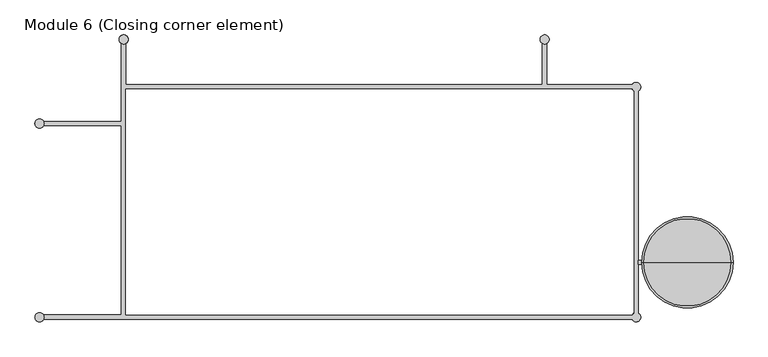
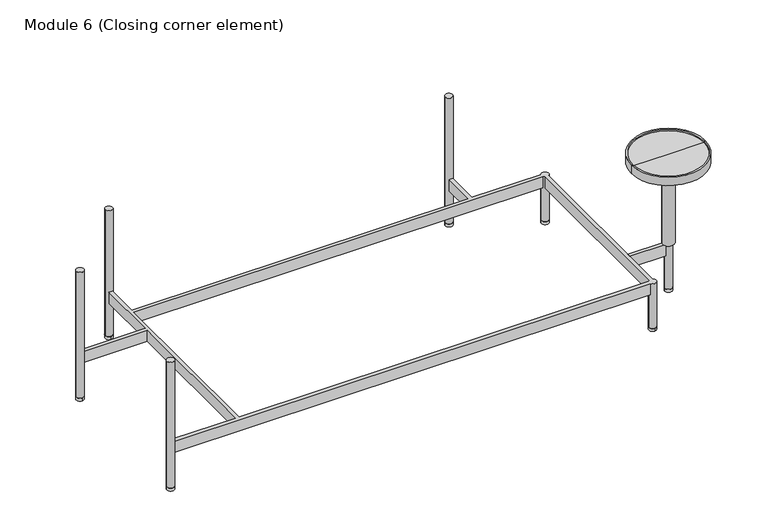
"""IFC4 building model written with IfcOpenShell, lengths in millimetres: furniture geometry, Module 6 (Closing corner element) : 1800х930х710мм."""

from ifc_helpers import new_model, si_unit, point, frame, frame_2d, origin, origin_with_axes, place, context, project, spatial, polyline, circle_curve, trimmed, segment, composite_curve, outline, extrude, source, transform, mapped, element, save
from ifc_brep_helpers import plane_surface, cylinder_surface, revolved_surface, advanced_brep


def module_6_closing_corner_element_505ae7c1(model_context):
    return source(origin(), model_context, "Body", "SolidModel", [
        extrude(outline(composite_curve([segment(trimmed(circle_curve(frame_2d((-30.0, -300.0281998)), 12.5), [point((-30.0, -312.5281998))], [point((-30.0, -287.5281998))], False, "CARTESIAN"), True, "CONTINUOUS"), segment(trimmed(circle_curve(frame_2d((-30.0, -300.0281998)), 12.5), [point((-30.0, -287.5281998))], [point((-30.0, -312.5281998))], False, "CARTESIAN"), True, "CONTINUOUS")], self_intersect=False)), origin_with_axes(), (0.0, 0.0, 1.0), 10.0),
        extrude(outline(composite_curve([segment(trimmed(circle_curve(frame_2d((-30.0, -830.0)), 12.5), [point((-17.5, -830.0))], [point((-42.5, -830.0))], False, "CARTESIAN"), True, "CONTINUOUS"), segment(trimmed(circle_curve(frame_2d((-30.0, -830.0)), 12.5), [point((-42.5, -830.0))], [point((-17.5, -830.0))], False, "CARTESIAN"), True, "CONTINUOUS")], self_intersect=False)), origin_with_axes(), (0.0, 0.0, 1.0), 10.0),
        extrude(outline(composite_curve([segment(trimmed(circle_curve(frame_2d((1740.0, -680.0)), 12.5), [point((1752.5, -680.0))], [point((1727.5, -680.0))], False, "CARTESIAN"), True, "CONTINUOUS"), segment(trimmed(circle_curve(frame_2d((1740.0, -680.0)), 12.5), [point((1727.5, -680.0))], [point((1752.5, -680.0))], False, "CARTESIAN"), True, "CONTINUOUS")], self_intersect=False)), origin_with_axes(), (0.0, 0.0, 1.0), 10.0),
        extrude(outline(composite_curve([segment(trimmed(circle_curve(frame_2d((1600.0, -200.0)), 12.5), [point((1612.5, -200.0))], [point((1587.5, -200.0))], False, "CARTESIAN"), True, "CONTINUOUS"), segment(trimmed(circle_curve(frame_2d((1600.0, -200.0)), 12.5), [point((1587.5, -200.0))], [point((1612.5, -200.0))], False, "CARTESIAN"), True, "CONTINUOUS")], self_intersect=False)), origin_with_axes(), (0.0, 0.0, 1.0), 10.0),
        extrude(outline(composite_curve([segment(trimmed(circle_curve(frame_2d((1350.0, -70.0)), 12.5), [point((1362.5, -70.0))], [point((1337.5, -70.0))], False, "CARTESIAN"), True, "CONTINUOUS"), segment(trimmed(circle_curve(frame_2d((1350.0, -70.0)), 12.5), [point((1337.5, -70.0))], [point((1362.5, -70.0))], False, "CARTESIAN"), True, "CONTINUOUS")], self_intersect=False)), origin_with_axes(), (0.0, 0.0, 1.0), 10.0),
        extrude(outline(composite_curve([segment(trimmed(circle_curve(frame_2d((1600.0, -830.0)), 12.5), [point((1600.0, -842.5))], [point((1600.0, -817.5))], False, "CARTESIAN"), True, "CONTINUOUS"), segment(trimmed(circle_curve(frame_2d((1600.0, -830.0)), 12.5), [point((1600.0, -817.5))], [point((1600.0, -842.5))], False, "CARTESIAN"), True, "CONTINUOUS")], self_intersect=False)), origin_with_axes(), (0.0, 0.0, 1.0), 10.0),
        extrude(outline(composite_curve([segment(trimmed(circle_curve(frame_2d((200.0, -70.0)), 12.5), [point((200.0, -82.5))], [point((200.0, -57.5))], False, "CARTESIAN"), True, "CONTINUOUS"), segment(trimmed(circle_curve(frame_2d((200.0, -70.0)), 12.5), [point((200.0, -57.5))], [point((200.0, -82.5))], False, "CARTESIAN"), True, "CONTINUOUS")], self_intersect=False)), origin_with_axes(), (0.0, 0.0, 1.0), 10.0),
        advanced_brep(
        [(1605.9718002, -674.0, 170.0), (1605.9718002, -674.0, 130.0), (1605.9718002, -686.0, 130.0), (1605.9718002, -686.0, 170.0), (1729.0341439, -686.0, 170.0), (1752.5, -680.0, 170.0), (1729.0341439, -674.0, 170.0), (1729.0341439, -686.0, 130.0), (1729.0341439, -674.0, 130.0), (1727.5, -680.0, 130.0), (1727.5, -680.0, 10.0), (1752.5, -680.0, 10.0)],
        [
            (0, 1),
            (1, 2),
            (2, 3),
            (3, 0),
            (3, 4),
            (4, 5, circle_curve(frame((1740.0, -680.0, 170.0), z_axis=(0.0, 0.0, 1.0), x_axis=(1.0, 0.0, 0.0)), 12.5)),
            (5, 6, circle_curve(frame((1740.0, -680.0, 170.0), z_axis=(0.0, 0.0, 1.0), x_axis=(1.0, 0.0, 0.0)), 12.5)),
            (6, 0),
            (2, 7),
            (7, 4),
            (1, 8),
            (8, 9, circle_curve(frame((1740.0, -680.0, 130.0), z_axis=(0.0, 0.0, 1.0), x_axis=(1.0, 0.0, 0.0)), 12.5)),
            (9, 7, circle_curve(frame((1740.0, -680.0, 130.0), z_axis=(0.0, 0.0, 1.0), x_axis=(1.0, 0.0, 0.0)), 12.5)),
            (6, 8),
            (10, 11, circle_curve(frame((1740.0, -680.0, 10.0), z_axis=(0.0, 0.0, -1.0), x_axis=(1.0, 0.0, 0.0)), 12.5)),
            (11, 10, circle_curve(frame((1740.0, -680.0, 10.0), z_axis=(0.0, 0.0, -1.0), x_axis=(1.0, 0.0, 0.0)), 12.5)),
            (11, 5),
            (9, 10),
        ],
        [
            plane_surface(frame((1605.9718002, -680.0, 0.0), z_axis=(-1.0, 0.0, 0.0), x_axis=(0.0, 0.0, 1.0))),
            plane_surface(frame((1740.0, -674.0, 170.0), z_axis=(0.0, 0.0, 1.0), x_axis=(-1.0, 0.0, 0.0))),
            plane_surface(frame((1740.0, -686.0, 170.0), z_axis=(0.0, -1.0, 0.0), x_axis=(-1.0, 0.0, 0.0))),
            plane_surface(frame((1740.0, -686.0, 130.0), z_axis=(0.0, 0.0, -1.0), x_axis=(-1.0, 0.0, 0.0))),
            plane_surface(frame((1740.0, -674.0, 130.0), z_axis=(0.0, 1.0, 0.0), x_axis=(-1.0, 0.0, 0.0))),
            plane_surface(frame((1752.5, -680.0, 10.0), z_axis=(0.0, 0.0, -1.0), x_axis=(0.0, -1.0, 0.0))),
            cylinder_surface(frame((1740.0, -680.0, 10.0), z_axis=(0.0, 0.0, 1.0), x_axis=(1.0, 0.0, 0.0)), 12.5),
        ],
        [
            (0, [[1, 2, 3, 4]]),
            (1, [[-4, 5, 6, 7, 8]]),
            (2, [[-3, 9, 10, -5]]),
            (3, [[-2, 11, 12, 13, -9]]),
            (4, [[-1, -8, 14, -11]]),
            (5, [[15, 16]]),
            (6, [[-16, 17, -6, -10, -13, 18]]),
            (6, [[-15, -18, -12, -14, -7, -17]]),
        ],
    ),
        advanced_brep(
        [(206.0281998, -206.0281998, 130.0), (206.0281998, -206.0281998, 170.0), (206.0281998, -823.9718002, 170.0), (206.0281998, -823.9718002, 130.0), (194.0281998, -306.0281998, 170.0), (194.0281998, -306.0281998, 130.0), (194.0281998, -823.9718002, 130.0), (194.0281998, -823.9718002, 170.0), (194.0281998, -294.0281998, 130.0), (194.0281998, -294.0281998, 170.0), (194.0281998, -80.9812386, 170.0), (194.0281998, -80.9812386, 130.0), (1589.0496207, -823.9718002, 170.0), (1589.0496207, -823.9718002, 130.0), (1589.0187614, -835.9718002, 130.0), (1589.0187614, -835.9718002, 170.0), (-19.0187614, -835.9718002, 170.0), (-19.0187614, -835.9718002, 130.0), (1593.9718002, -819.0496207, 170.0), (1593.9718002, -210.9503793, 170.0), (1593.9718002, -210.9503793, 130.0), (1593.9718002, -819.0496207, 130.0), (1605.9718002, -819.0187614, 130.0), (1605.9718002, -210.9812386, 130.0), (1605.9718002, -210.9812386, 170.0), (1605.9718002, -819.0187614, 170.0), (1589.0496207, -206.0281998, 130.0), (1589.0496207, -206.0281998, 170.0), (1587.5, -830.0, 130.0), (-17.5, -830.0, 130.0), (-19.0496207, -823.9718002, 130.0), (-19.0341439, -306.0281998, 130.0), (-17.5, -300.0281998, 130.0), (-19.0341439, -294.0281998, 130.0), (206.0281998, -80.9503793, 130.0), (206.0281998, -194.0281998, 130.0), (1344.0, -194.0281998, 130.0), (1344.0, -80.9658561, 130.0), (1356.0, -80.9658561, 130.0), (1356.0, -194.0281998, 130.0), (1589.0187614, -194.0281998, 130.0), (1587.5, -200.0, 130.0), (1589.0187614, -194.0281998, 170.0), (1356.0, -194.0281998, 170.0), (206.0281998, -194.0281998, 170.0), (1344.0, -194.0281998, 170.0), (1612.5, -830.0, 170.0), (1612.5, -200.0, 170.0), (1356.0, -80.9658561, 170.0), (1344.0, -80.9658561, 170.0), (206.0281998, -80.9503793, 170.0), (-19.0341439, -294.0281998, 170.0), (-17.5, -300.0281998, 170.0), (-19.0341439, -306.0281998, 170.0), (-19.0496207, -823.9718002, 170.0), (-17.5, -830.0, 170.0), (1587.5, -830.0, 10.0), (1612.5, -830.0, 10.0), (1587.5, -200.0, 10.0), (1612.5, -200.0, 10.0), (187.5, -70.0, 460.0), (212.5, -70.0, 460.0), (1337.5, -70.0, 460.0), (1362.5, -70.0, 460.0), (-42.5, -830.0, 460.0), (-17.5, -830.0, 460.0), (-42.5, -300.0281998, 460.0), (-17.5, -300.0281998, 460.0), (187.5, -70.0, 10.0), (212.5, -70.0, 10.0), (1337.5, -70.0, 10.0), (1362.5, -70.0, 10.0), (-42.5, -830.0, 10.0), (-17.5, -830.0, 10.0), (-42.5, -300.0281998, 10.0), (-17.5, -300.0281998, 10.0)],
        [
            (0, 1),
            (1, 2),
            (2, 3),
            (3, 0),
            (4, 5),
            (5, 6),
            (6, 7),
            (7, 4),
            (8, 9),
            (9, 10),
            (10, 11),
            (11, 8),
            (2, 12),
            (12, 13),
            (13, 3),
            (14, 15),
            (15, 16),
            (16, 17),
            (17, 14),
            (18, 19),
            (19, 20),
            (20, 21),
            (21, 18),
            (22, 23),
            (23, 24),
            (24, 25),
            (25, 22),
            (0, 26),
            (26, 27),
            (27, 1),
            (13, 28, circle_curve(frame((1600.0, -830.0, 130.0), z_axis=(0.0, 0.0, 1.0), x_axis=(1.0, 0.0, 0.0)), 12.5)),
            (28, 14, circle_curve(frame((1600.0, -830.0, 130.0), z_axis=(0.0, 0.0, 1.0), x_axis=(1.0, 0.0, 0.0)), 12.5)),
            (17, 29, circle_curve(frame((-30.0, -830.0, 130.0), z_axis=(0.0, 0.0, 1.0), x_axis=(1.0, 0.0, 0.0)), 12.5)),
            (29, 30, circle_curve(frame((-30.0, -830.0, 130.0), z_axis=(0.0, 0.0, 1.0), x_axis=(1.0, 0.0, 0.0)), 12.5)),
            (30, 6),
            (5, 31),
            (31, 32, circle_curve(frame((-30.0, -300.0281998, 130.0), z_axis=(0.0, 0.0, 1.0), x_axis=(1.0, 0.0, 0.0)), 12.5)),
            (32, 33, circle_curve(frame((-30.0, -300.0281998, 130.0), z_axis=(0.0, 0.0, 1.0), x_axis=(1.0, 0.0, 0.0)), 12.5)),
            (33, 8),
            (11, 34, circle_curve(frame((200.0, -70.0, 130.0), z_axis=(0.0, 0.0, 1.0), x_axis=(1.0, 0.0, 0.0)), 12.5)),
            (34, 35),
            (35, 36),
            (36, 37),
            (37, 38, circle_curve(frame((1350.0, -70.0, 130.0), z_axis=(0.0, 0.0, 1.0), x_axis=(1.0, 0.0, 0.0)), 12.5)),
            (38, 39),
            (39, 40),
            (40, 41, circle_curve(frame((1600.0, -200.0, 130.0), z_axis=(0.0, 0.0, 1.0), x_axis=(1.0, 0.0, 0.0)), 12.5)),
            (41, 26, circle_curve(frame((1600.0, -200.0, 130.0), z_axis=(0.0, 0.0, 1.0), x_axis=(1.0, 0.0, 0.0)), 12.5)),
            (22, 21, circle_curve(frame((1600.0, -830.0, 130.0), z_axis=(0.0, 0.0, 1.0), x_axis=(1.0, 0.0, 0.0)), 12.5)),
            (20, 23, circle_curve(frame((1600.0, -200.0, 130.0), z_axis=(0.0, 0.0, 1.0), x_axis=(1.0, 0.0, 0.0)), 12.5)),
            (42, 40),
            (39, 43),
            (43, 42),
            (35, 44),
            (44, 45),
            (45, 36),
            (15, 46, circle_curve(frame((1600.0, -830.0, 170.0), z_axis=(0.0, 0.0, 1.0), x_axis=(1.0, 0.0, 0.0)), 12.5)),
            (46, 25, circle_curve(frame((1600.0, -830.0, 170.0), z_axis=(0.0, 0.0, 1.0), x_axis=(1.0, 0.0, 0.0)), 12.5)),
            (24, 47, circle_curve(frame((1600.0, -200.0, 170.0), z_axis=(0.0, 0.0, 1.0), x_axis=(1.0, 0.0, 0.0)), 12.5)),
            (47, 42, circle_curve(frame((1600.0, -200.0, 170.0), z_axis=(0.0, 0.0, 1.0), x_axis=(1.0, 0.0, 0.0)), 12.5)),
            (43, 48),
            (48, 49, circle_curve(frame((1350.0, -70.0, 170.0), z_axis=(0.0, 0.0, -1.0), x_axis=(1.0, 0.0, 0.0)), 12.5)),
            (49, 45),
            (44, 50),
            (50, 10, circle_curve(frame((200.0, -70.0, 170.0), z_axis=(0.0, 0.0, -1.0), x_axis=(1.0, 0.0, 0.0)), 12.5)),
            (9, 51),
            (51, 52, circle_curve(frame((-30.0, -300.0281998, 170.0), z_axis=(0.0, 0.0, -1.0), x_axis=(1.0, 0.0, 0.0)), 12.5)),
            (52, 53, circle_curve(frame((-30.0, -300.0281998, 170.0), z_axis=(0.0, 0.0, -1.0), x_axis=(1.0, 0.0, 0.0)), 12.5)),
            (53, 4),
            (7, 54),
            (54, 55, circle_curve(frame((-30.0, -830.0, 170.0), z_axis=(0.0, 0.0, -1.0), x_axis=(1.0, 0.0, 0.0)), 12.5)),
            (55, 16, circle_curve(frame((-30.0, -830.0, 170.0), z_axis=(0.0, 0.0, -1.0), x_axis=(1.0, 0.0, 0.0)), 12.5)),
            (27, 19, circle_curve(frame((1600.0, -200.0, 170.0), z_axis=(0.0, 0.0, 1.0), x_axis=(1.0, 0.0, 0.0)), 12.5)),
            (18, 12, circle_curve(frame((1600.0, -830.0, 170.0), z_axis=(0.0, 0.0, 1.0), x_axis=(1.0, 0.0, 0.0)), 12.5)),
            (56, 57, circle_curve(frame((1600.0, -830.0, 10.0), z_axis=(0.0, 0.0, -1.0), x_axis=(1.0, 0.0, 0.0)), 12.5)),
            (57, 56, circle_curve(frame((1600.0, -830.0, 10.0), z_axis=(0.0, 0.0, -1.0), x_axis=(1.0, 0.0, 0.0)), 12.5)),
            (58, 59, circle_curve(frame((1600.0, -200.0, 10.0), z_axis=(0.0, 0.0, -1.0), x_axis=(1.0, 0.0, 0.0)), 12.5)),
            (59, 58, circle_curve(frame((1600.0, -200.0, 10.0), z_axis=(0.0, 0.0, -1.0), x_axis=(1.0, 0.0, 0.0)), 12.5)),
            (57, 46),
            (28, 56),
            (59, 47),
            (41, 58),
            (60, 61, circle_curve(frame((200.0, -70.0, 460.0), z_axis=(0.0, 0.0, 1.0), x_axis=(1.0, 0.0, 0.0)), 12.5)),
            (61, 60, circle_curve(frame((200.0, -70.0, 460.0), z_axis=(0.0, 0.0, 1.0), x_axis=(1.0, 0.0, 0.0)), 12.5)),
            (62, 63, circle_curve(frame((1350.0, -70.0, 460.0), z_axis=(0.0, 0.0, 1.0), x_axis=(1.0, 0.0, 0.0)), 12.5)),
            (63, 62, circle_curve(frame((1350.0, -70.0, 460.0), z_axis=(0.0, 0.0, 1.0), x_axis=(1.0, 0.0, 0.0)), 12.5)),
            (64, 65, circle_curve(frame((-30.0, -830.0, 460.0), z_axis=(0.0, 0.0, 1.0), x_axis=(1.0, 0.0, 0.0)), 12.5)),
            (65, 64, circle_curve(frame((-30.0, -830.0, 460.0), z_axis=(0.0, 0.0, 1.0), x_axis=(1.0, 0.0, 0.0)), 12.5)),
            (66, 67, circle_curve(frame((-30.0, -300.0281998, 460.0), z_axis=(0.0, 0.0, 1.0), x_axis=(1.0, 0.0, 0.0)), 12.5)),
            (67, 66, circle_curve(frame((-30.0, -300.0281998, 460.0), z_axis=(0.0, 0.0, 1.0), x_axis=(1.0, 0.0, 0.0)), 12.5)),
            (68, 69, circle_curve(frame((200.0, -70.0, 10.0), z_axis=(0.0, 0.0, -1.0), x_axis=(1.0, 0.0, 0.0)), 12.5)),
            (69, 68, circle_curve(frame((200.0, -70.0, 10.0), z_axis=(0.0, 0.0, -1.0), x_axis=(1.0, 0.0, 0.0)), 12.5)),
            (70, 71, circle_curve(frame((1350.0, -70.0, 10.0), z_axis=(0.0, 0.0, -1.0), x_axis=(1.0, 0.0, 0.0)), 12.5)),
            (71, 70, circle_curve(frame((1350.0, -70.0, 10.0), z_axis=(0.0, 0.0, -1.0), x_axis=(1.0, 0.0, 0.0)), 12.5)),
            (72, 73, circle_curve(frame((-30.0, -830.0, 10.0), z_axis=(0.0, 0.0, -1.0), x_axis=(1.0, 0.0, 0.0)), 12.5)),
            (73, 72, circle_curve(frame((-30.0, -830.0, 10.0), z_axis=(0.0, 0.0, -1.0), x_axis=(1.0, 0.0, 0.0)), 12.5)),
            (74, 75, circle_curve(frame((-30.0, -300.0281998, 10.0), z_axis=(0.0, 0.0, -1.0), x_axis=(1.0, 0.0, 0.0)), 12.5)),
            (75, 74, circle_curve(frame((-30.0, -300.0281998, 10.0), z_axis=(0.0, 0.0, -1.0), x_axis=(1.0, 0.0, 0.0)), 12.5)),
            (60, 68),
            (69, 61),
            (50, 34),
            (62, 70),
            (71, 63),
            (48, 38),
            (37, 49),
            (64, 72),
            (73, 29),
            (55, 65),
            (54, 30),
            (53, 31),
            (33, 51),
            (66, 74),
            (75, 32),
            (52, 67),
        ],
        [
            plane_surface(frame((206.0281998, -206.0281998, 170.0), z_axis=(1.0, 0.0, 0.0), x_axis=(0.0, -1.0, 0.0))),
            plane_surface(frame((194.0281998, -194.0281998, 130.0), z_axis=(-1.0, 0.0, 0.0), x_axis=(0.0, -1.0, 0.0))),
            plane_surface(frame((206.0281998, -823.9718002, 170.0), z_axis=(0.0, 1.0, 0.0), x_axis=(1.0, 0.0, 0.0))),
            plane_surface(frame((194.0281998, -835.9718002, 130.0), z_axis=(0.0, -1.0, 0.0), x_axis=(1.0, 0.0, 0.0))),
            plane_surface(frame((1593.9718002, -823.9718002, 170.0), z_axis=(-1.0, 0.0, 0.0), x_axis=(0.0, 1.0, 0.0))),
            plane_surface(frame((1605.9718002, -835.9718002, 130.0), z_axis=(1.0, 0.0, 0.0), x_axis=(0.0, 1.0, 0.0))),
            plane_surface(frame((1593.9718002, -206.0281998, 170.0), z_axis=(0.0, -1.0, 0.0), x_axis=(-1.0, 0.0, 0.0))),
            plane_surface(frame((1593.9718002, -206.0281998, 130.0), z_axis=(0.0, 0.0, -1.0), x_axis=(-1.0, 0.0, 0.0))),
            plane_surface(frame((1605.9718002, -194.0281998, 130.0), z_axis=(0.0, 1.0, 0.0), x_axis=(-1.0, 0.0, 0.0))),
            plane_surface(frame((1605.9718002, -194.0281998, 170.0), z_axis=(0.0, 0.0, 1.0), x_axis=(-1.0, 0.0, 0.0))),
            plane_surface(frame((1612.5, -830.0, 10.0), z_axis=(0.0, 0.0, -1.0), x_axis=(0.0, -1.0, 0.0))),
            cylinder_surface(frame((1600.0, -830.0, 10.0), z_axis=(0.0, 0.0, 1.0), x_axis=(1.0, 0.0, 0.0)), 12.5),
            cylinder_surface(frame((1600.0, -200.0, 0.0), z_axis=(0.0, 0.0, 1.0), x_axis=(1.0, 0.0, 0.0)), 12.5),
            plane_surface(frame((212.5, -70.0, 460.0), z_axis=(0.0, 0.0, 1.0), x_axis=(0.0, 1.0, 0.0))),
            plane_surface(frame((212.5, -70.0, 10.0), z_axis=(0.0, 0.0, -1.0), x_axis=(0.0, -1.0, 0.0))),
            cylinder_surface(frame((200.0, -70.0, 10.0), z_axis=(0.0, 0.0, 1.0), x_axis=(1.0, 0.0, 0.0)), 12.5),
            cylinder_surface(frame((1350.0, -70.0, 0.0), z_axis=(0.0, 0.0, 1.0), x_axis=(1.0, 0.0, 0.0)), 12.5),
            plane_surface(frame((206.0281998, -70.0, 170.0), z_axis=(1.0, 0.0, 0.0), x_axis=(0.0, -1.0, 0.0))),
            plane_surface(frame((1356.0, -70.0, 170.0), z_axis=(1.0, 0.0, 0.0), x_axis=(0.0, -1.0, 0.0))),
            plane_surface(frame((1344.0, -70.0, 130.0), z_axis=(-1.0, 0.0, 0.0), x_axis=(0.0, -1.0, 0.0))),
            cylinder_surface(frame((-30.0, -830.0, 0.0), z_axis=(0.0, 0.0, 1.0), x_axis=(1.0, 0.0, 0.0)), 12.5),
            plane_surface(frame((200.0, -823.9718002, 130.0), z_axis=(0.0, 1.0, 0.0), x_axis=(-1.0, 0.0, 0.0))),
            plane_surface(frame((206.0281998, -306.0281998, 170.0), z_axis=(0.0, -1.0, 0.0), x_axis=(-1.0, 0.0, 0.0))),
            plane_surface(frame((194.0281998, -294.0281998, 130.0), z_axis=(0.0, 1.0, 0.0), x_axis=(-1.0, 0.0, 0.0))),
            cylinder_surface(frame((-30.0, -300.0281998, 0.0), z_axis=(0.0, 0.0, 1.0), x_axis=(1.0, 0.0, 0.0)), 12.5),
        ],
        [
            (0, [[1, 2, 3, 4]]),
            (1, [[5, 6, 7, 8]]),
            (1, [[9, 10, 11, 12]]),
            (2, [[-3, 13, 14, 15]]),
            (3, [[16, 17, 18, 19]]),
            (4, [[20, 21, 22, 23]]),
            (5, [[24, 25, 26, 27]]),
            (6, [[-1, 28, 29, 30]]),
            (7, [[-15, 31, 32, -19, 33, 34, 35, -6, 36, 37, 38, 39, -12, 40, 41, 42, 43, 44, 45, 46, 47, 48, -28, -4]]),
            (7, [[-24, 49, -22, 50]]),
            (8, [[51, -46, 52, 53]]),
            (8, [[54, 55, 56, -42]]),
            (9, [[-17, 57, 58, -26, 59, 60, -53, 61, 62, 63, -55, 64, 65, -10, 66, 67, 68, 69, -8, 70, 71, 72], [-13, -2, -30, 73, -20, 74]]),
            (10, [[75, 76]]),
            (10, [[77, 78]]),
            (11, [[-76, 79, -57, -16, -32, 80]]),
            (11, [[-75, -80, -31, -14, -74, -23, -49, -27, -58, -79]]),
            (12, [[-78, 81, -59, -25, -50, -21, -73, -29, -48, 82]]),
            (12, [[-77, -82, -47, -51, -60, -81]]),
            (13, [[83, 84]]),
            (13, [[85, 86]]),
            (13, [[87, 88]]),
            (13, [[89, 90]]),
            (14, [[91, 92]]),
            (14, [[93, 94]]),
            (14, [[95, 96]]),
            (14, [[97, 98]]),
            (15, [[-83, 99, -92, 100], [101, -40, -11, -65]]),
            (15, [[-84, -100, -91, -99]]),
            (16, [[-85, 102, -94, 103], [104, -44, 105, -62]]),
            (16, [[-86, -103, -93, -102]]),
            (17, [[-64, -54, -41, -101]]),
            (18, [[-61, -52, -45, -104]]),
            (19, [[-43, -56, -63, -105]]),
            (20, [[-87, 106, -96, 107, -33, -18, -72, 108]]),
            (20, [[-88, -108, -71, 109, -34, -107, -95, -106]]),
            (21, [[-70, -7, -35, -109]]),
            (22, [[-36, -5, -69, 110]]),
            (23, [[-66, -9, -39, 111]]),
            (24, [[-89, 112, -98, 113, -37, -110, -68, 114]]),
            (24, [[-90, -114, -67, -111, -38, -113, -97, -112]]),
        ],
    ),
        advanced_brep(
        [(1620.0, -680.0, 490.0), (1860.0, -680.0, 490.0), (1865.0, -680.0, 490.0), (1615.0, -680.0, 490.0), (1620.0, -680.0, 485.0), (1860.0, -680.0, 485.0), (1740.0, -680.0, 485.0), (1720.0, -680.0, 170.0), (1760.0, -680.0, 170.0), (1740.0, -680.0, 170.0), (1720.0, -680.0, 460.0), (1760.0, -680.0, 460.0), (1615.0, -680.0, 460.0), (1865.0, -680.0, 460.0)],
        [
            (0, 1, circle_curve(frame((1740.0, -680.0, 490.0), z_axis=(0.0, 0.0, -1.0), x_axis=(1.0, 0.0, 0.0)), 120.0)),
            (1, 2),
            (2, 3, circle_curve(frame((1740.0, -680.0, 490.0), z_axis=(0.0, 0.0, 1.0), x_axis=(1.0, 0.0, 0.0)), 125.0)),
            (3, 0),
            (1, 0, circle_curve(frame((1740.0, -680.0, 490.0), z_axis=(0.0, 0.0, -1.0), x_axis=(1.0, 0.0, 0.0)), 120.0)),
            (3, 2, circle_curve(frame((1740.0, -680.0, 490.0), z_axis=(0.0, 0.0, 1.0), x_axis=(1.0, 0.0, 0.0)), 125.0)),
            (4, 5, circle_curve(frame((1740.0, -680.0, 485.0), z_axis=(0.0, 0.0, -1.0), x_axis=(1.0, 0.0, 0.0)), 120.0)),
            (5, 1),
            (0, 4),
            (5, 4, circle_curve(frame((1740.0, -680.0, 485.0), z_axis=(0.0, 0.0, -1.0), x_axis=(1.0, 0.0, 0.0)), 120.0)),
            (6, 5),
            (4, 6),
            (7, 8, circle_curve(frame((1740.0, -680.0, 170.0), z_axis=(0.0, 0.0, -1.0), x_axis=(1.0, 0.0, 0.0)), 20.0)),
            (8, 9),
            (9, 7),
            (8, 7, circle_curve(frame((1740.0, -680.0, 170.0), z_axis=(0.0, 0.0, -1.0), x_axis=(1.0, 0.0, 0.0)), 20.0)),
            (10, 11, circle_curve(frame((1740.0, -680.0, 460.0), z_axis=(0.0, 0.0, -1.0), x_axis=(1.0, 0.0, 0.0)), 20.0)),
            (11, 8),
            (7, 10),
            (11, 10, circle_curve(frame((1740.0, -680.0, 460.0), z_axis=(0.0, 0.0, -1.0), x_axis=(1.0, 0.0, 0.0)), 20.0)),
            (12, 13, circle_curve(frame((1740.0, -680.0, 460.0), z_axis=(0.0, 0.0, -1.0), x_axis=(1.0, 0.0, 0.0)), 125.0)),
            (13, 11),
            (10, 12),
            (13, 12, circle_curve(frame((1740.0, -680.0, 460.0), z_axis=(0.0, 0.0, -1.0), x_axis=(1.0, 0.0, 0.0)), 125.0)),
            (2, 13),
            (12, 3),
        ],
        [
            plane_surface(frame((1740.0, -680.0, 490.0), z_axis=(0.0, 0.0, 1.0), x_axis=(1.0, 0.0, 0.0))),
            revolved_surface(polyline([(1860.0, -680.0, 490.0), (1860.0, -680.0, 485.0)]), (1740.0, -680.0, 2438.4), (0.0, 0.0, 1.0)),
            plane_surface(frame((1740.0, -680.0, 485.0), z_axis=(0.0, 0.0, 1.0), x_axis=(1.0, 0.0, 0.0))),
            plane_surface(frame((1740.0, -680.0, 170.0), z_axis=(0.0, 0.0, -1.0), x_axis=(1.0, 0.0, 0.0))),
            cylinder_surface(frame((1740.0, -680.0, 2438.4), z_axis=(0.0, 0.0, 1.0), x_axis=(1.0, 0.0, 0.0)), 20.0),
            plane_surface(frame((1740.0, -680.0, 460.0), z_axis=(0.0, 0.0, -1.0), x_axis=(1.0, 0.0, 0.0))),
            cylinder_surface(frame((1740.0, -680.0, 2438.4), z_axis=(0.0, 0.0, 1.0), x_axis=(1.0, 0.0, 0.0)), 125.0),
        ],
        [
            (0, [[1, 2, 3, 4]]),
            (0, [[5, -4, 6, -2]]),
            (1, [[7, 8, -1, 9]]),
            (1, [[10, -9, -5, -8]]),
            (2, [[11, -7, 12]]),
            (2, [[-12, -10, -11]]),
            (3, [[13, 14, 15]]),
            (3, [[16, -15, -14]]),
            (4, [[17, 18, -13, 19]]),
            (4, [[20, -19, -16, -18]]),
            (5, [[21, 22, -17, 23]]),
            (5, [[24, -23, -20, -22]]),
            (6, [[-3, 25, -21, 26]]),
            (6, [[-6, -26, -24, -25]]),
        ],
    ),
    ])


if __name__ == "__main__":
    model = new_model("IFC4")
    model_context = context("Model", 3, world=origin())
    ifc_project = project(units=[si_unit("LENGTHUNIT", "METRE", prefix="MILLI")], contexts=[model_context])
    site = spatial("IfcSite", under=ifc_project)
    building = spatial("IfcBuilding", under=site)
    placement = place(None, origin())
    module_6_closing_corner_element_shape = module_6_closing_corner_element_505ae7c1(model_context)
    element("IfcFurniture", 1, ObjectType="Module 6 (Closing corner element) : 1800х930х710мм", at=placement, inside=building, context=model_context, shape_type="MappedRepresentation", body=[
        mapped(module_6_closing_corner_element_shape, transform((0.0, 0.0, 0.0), x_axis=(1.0, 0.0, 0.0), y_axis=(0.0, 1.0, 0.0), z_axis=(0.0, 0.0, 1.0))),
    ])
    save(model, "model.ifc")
